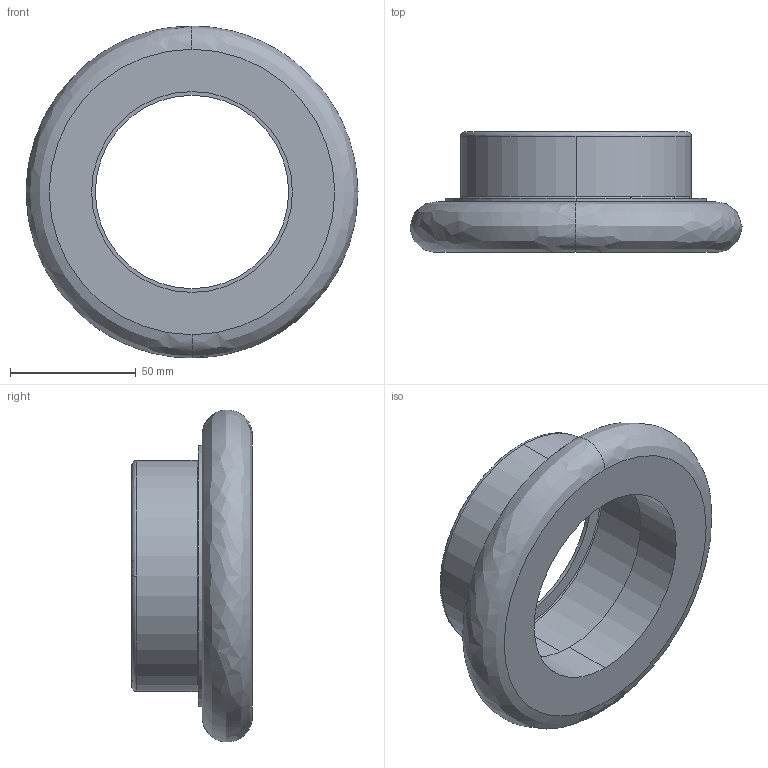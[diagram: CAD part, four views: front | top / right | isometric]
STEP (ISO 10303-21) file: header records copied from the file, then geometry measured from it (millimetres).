
FILE_DESCRIPTION (( 'STEP AP203' ), '1' );
FILE_NAME ('VAN 2_STEP.STEP', '2015-12-10T11:55:13', ( 'admin' ), ( '' ), 'SwSTEP 2.0', 'SolidWorks 2015', '' );
FILE_SCHEMA (( 'CONFIG_CONTROL_DESIGN' ));
Length unit declared in the file: millimetre
Products named in the file (2): VAN 2_STEP
Bounding box: 132.21 x 48 x 132.21 mm (x, y, z)
Volume: 173548.9 mm3; surface area: 50092.9 mm2
Topology: 2 solids, 2 shells, 26 faces, 60 edges, 40 vertices
Faces by surface type: bspline 10, cylinder 10, plane 6
Entity records: 2150 total; most frequent: CARTESIAN_POINT 1453, ORIENTED_EDGE 120, DIRECTION 108, EDGE_CURVE 60, AXIS2_PLACEMENT_3D 49, VERTEX_POINT 40, EDGE_LOOP 32, CIRCLE 31
